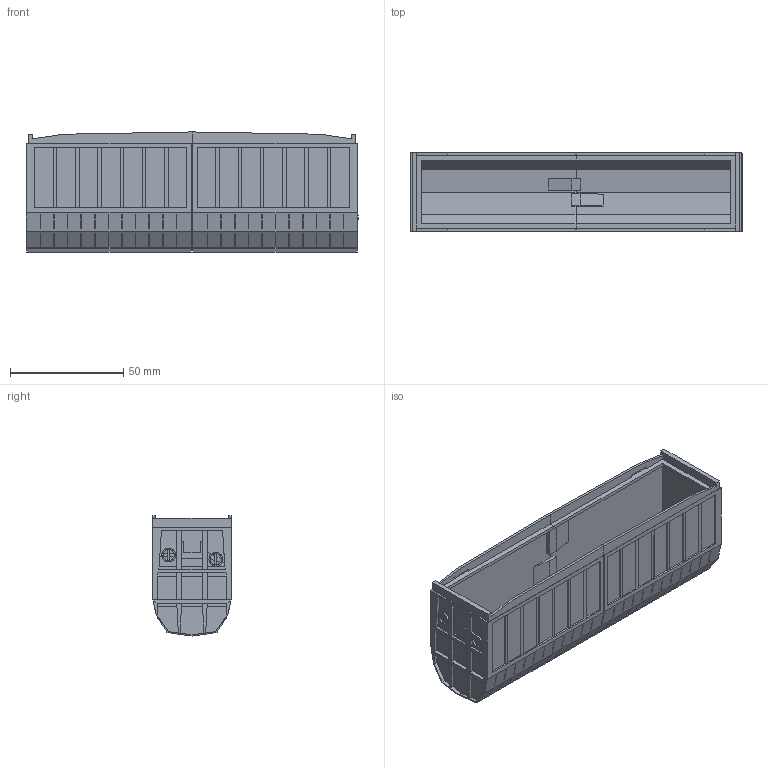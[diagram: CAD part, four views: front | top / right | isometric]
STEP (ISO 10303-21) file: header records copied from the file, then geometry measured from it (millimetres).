
FILE_DESCRIPTION((''),'2;1');
FILE_NAME('SIMN_ASM','2007-04-10T',('juha.telimaa'),('Thermo'),'PRO/ENGINEER BY PARAMETRIC TECHNOLOGY CORPORATION, 2005070','PRO/ENGINEER BY PARAMETRIC TECHNOLOGY CORPORATION, 2005070','');
FILE_SCHEMA(('CONFIG_CONTROL_DESIGN'));
Length unit declared in the file: millimetre
Products named in the file (2): SIMN; SIMN_ASM
Assembly tree (2 placements, depth 2):
  SIMN_ASM
    SIMN  x2
Bounding box: 146.5 x 35 x 53 mm (x, y, z)
Volume: 29025.7 mm3; surface area: 47352.2 mm2
Topology: 2 solids, 2 shells, 974 faces, 2580 edges, 1708 vertices
Faces by surface type: plane 958, cylinder 16
Entity records: 14858 total; most frequent: CARTESIAN_POINT 2635, ORIENTED_EDGE 2580, DIRECTION 2312, EDGE_CURVE 1290, VECTOR 1250, LINE 1250, VERTEX_POINT 854, EDGE_LOOP 536
